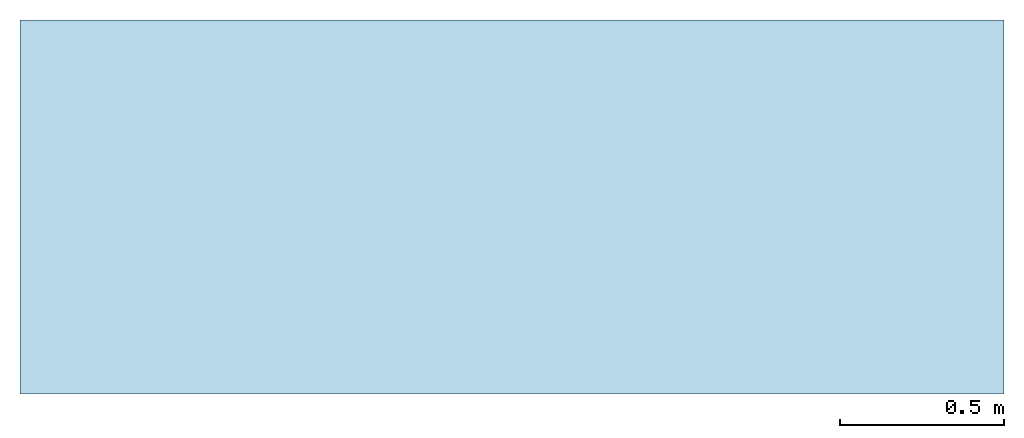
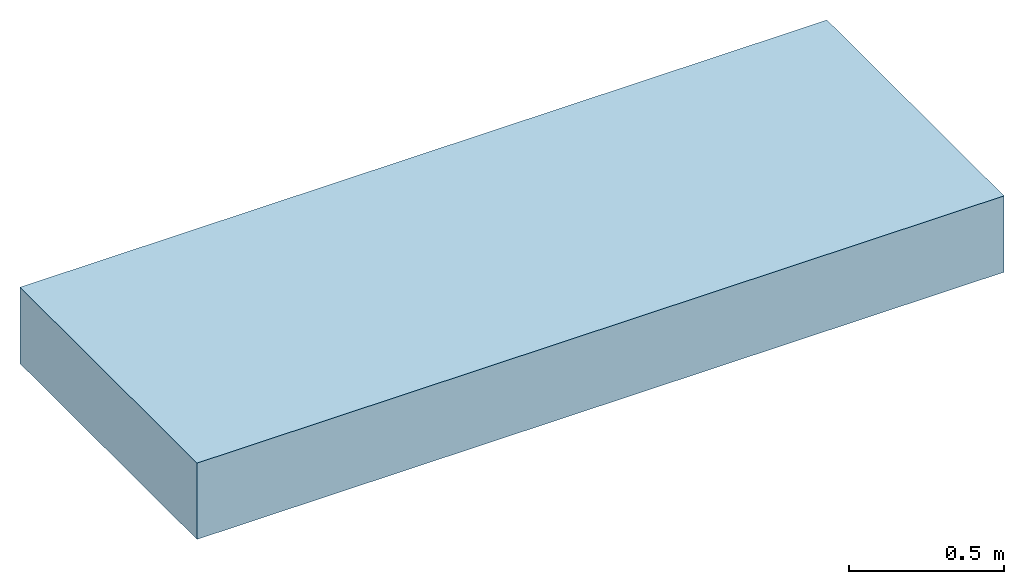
# One storey: 1 slab.
"""IFC2X3 building model written with IfcOpenShell, lengths in metres."""

from ifc_helpers import new_model, entity, si_unit, converted_unit, derived_unit, direction, frame, origin, origin_2d_with_axis, place, context, subcontext, project, spatial, rectangle, extrude, material, layer, layer_set, layer_usage, type_object, element, save


model = new_model("IFC2X3")

# Units and contexts
model_context = context("Model", 3, precision=1e-05, world=origin(), true_north=direction((6.123031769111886e-17, 1.0)))
body_context = subcontext(model_context, "Body", "Model", "MODEL_VIEW")
ifc_project = project(units=[si_unit("LENGTHUNIT", "METRE"), si_unit("AREAUNIT", "SQUARE_METRE"), converted_unit("PLANEANGLEUNIT", "DEGREE", entity("IfcPlaneAngleMeasure", 0.017453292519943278), si_unit("PLANEANGLEUNIT", "RADIAN"), dimensions=[0, 0, 0, 0, 0, 0, 0]), si_unit("VOLUMEUNIT", "CUBIC_METRE"), derived_unit("THERMALTRANSMITTANCEUNIT", [(si_unit("MASSUNIT", "GRAM", prefix="KILO"), 1), (si_unit("THERMODYNAMICTEMPERATUREUNIT", "KELVIN"), -1), (si_unit("TIMEUNIT", "SECOND"), -3)]), derived_unit("USERDEFINED", [(si_unit("MASSUNIT", "GRAM", prefix="KILO"), 1), (si_unit("THERMODYNAMICTEMPERATUREUNIT", "KELVIN"), -1), (si_unit("TIMEUNIT", "SECOND"), -2)]), derived_unit("THERMALRESISTANCEUNIT", [(si_unit("MASSUNIT", "GRAM", prefix="KILO"), -1), (si_unit("TIMEUNIT", "SECOND"), 3), (si_unit("THERMODYNAMICTEMPERATUREUNIT", "KELVIN"), 1)]), derived_unit("MASSDENSITYUNIT", [(si_unit("MASSUNIT", "GRAM", prefix="KILO"), 1), (si_unit("LENGTHUNIT", "METRE"), -3)]), derived_unit("VAPORPERMEABILITYUNIT", [(si_unit("LENGTHUNIT", "METRE"), -1), (si_unit("TIMEUNIT", "SECOND"), 1)]), derived_unit("USERDEFINED", [(si_unit("MASSUNIT", "GRAM", prefix="KILO"), 1), (si_unit("TIMEUNIT", "SECOND"), -3), (si_unit("LENGTHUNIT", "METRE"), 3), (si_unit("ELECTRICCURRENTUNIT", "AMPERE"), -2)]), si_unit("PRESSUREUNIT", "PASCAL")], contexts=[model_context])

# Site, building, storey
site_placement = place(None, origin())
site = spatial("IfcSite", under=ifc_project, at=site_placement, Name="Default", CompositionType="ELEMENT")
building_placement = place(site_placement, origin())
building = spatial("IfcBuilding", under=site, at=building_placement, CompositionType="ELEMENT")
storey_placement = place(building_placement, frame((0.0, 0.0, 3.0)))
storey = spatial("IfcBuildingStorey", under=building, at=storey_placement, Name="L1", CompositionType="ELEMENT", Elevation=3.0000000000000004)

# Slab
ifc_material = material(Name="DPG_Losa Principal Obra")
ifc_layer = layer(ifc_material, 0.30000000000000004)
ifc_layer_set = layer_set([ifc_layer], Name="Suelo:DPG_Losa Principal Obra")
ifc_layer_usage = layer_usage(ifc_layer_set, "AXIS3", "POSITIVE", 0.0)
slab_type = type_object("IfcSlabType", Name="Suelo:DPG_Losa Principal Obra", PredefinedType="FLOOR", material=ifc_layer_set)
slab_placement = place(storey_placement, origin())
element("IfcSlab", 1, at=slab_placement, inside=storey, type_object=slab_type, material=ifc_layer_usage, Name="Suelo:DPG_Losa Principal Obra", ObjectType="Suelo:DPG_Losa Principal Obra", PredefinedType="FLOOR", context=body_context, shape_type="SweptSolid", body=[
    extrude(rectangle(XDim=1.1400000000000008, YDim=3.0000000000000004, at=origin_2d_with_axis()), frame((6.3877202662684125, 15.364530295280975, 0.019999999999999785), z_axis=(0.0, 0.0, -1.0), x_axis=(0.0, 1.0, 0.0)), (0.0, 0.0, 1.0), 0.30000000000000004),
])

save(model, "model.ifc")
